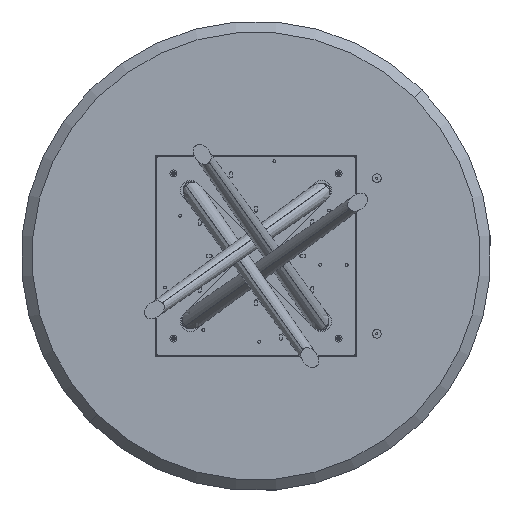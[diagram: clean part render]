
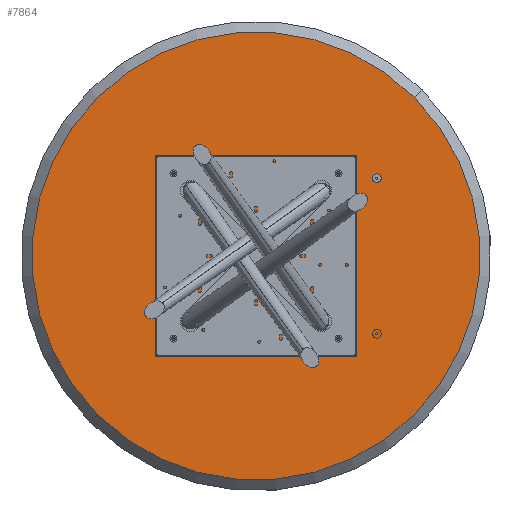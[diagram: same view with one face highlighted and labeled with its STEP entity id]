
A CAD part, front view. The second image highlights one B-rep face of the part: STEP entity #7864.
In plain terms, the highlighted planar face has unit normal (0, -1, 0).
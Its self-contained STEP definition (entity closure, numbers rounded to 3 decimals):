
#162 = EDGE_LOOP ( 'NONE', ( #18971, #11365 ) ) ;
#489 = AXIS2_PLACEMENT_3D ( 'NONE', #6352, #4981, #6551 ) ;
#820 = EDGE_CURVE ( 'NONE', #1099, #14665, #18886, .T. ) ;
#1099 = VERTEX_POINT ( 'NONE', #3529 ) ;
#1104 = AXIS2_PLACEMENT_3D ( 'NONE', #13378, #19371, #10521 ) ;
#1163 = DIRECTION ( 'NONE',  ( 0., -1., 0. ) ) ;
#1291 = DIRECTION ( 'NONE',  ( 0., 0., -1. ) ) ;
#1385 = EDGE_LOOP ( 'NONE', ( #18387, #8740 ) ) ;
#1412 = EDGE_CURVE ( 'NONE', #15209, #9123, #15758, .T. ) ;
#1702 = CIRCLE ( 'NONE', #15176, 3.4 ) ;
#1799 = FACE_BOUND ( 'NONE', #9133, .T. ) ;
#2221 = CARTESIAN_POINT ( 'NONE',  ( 0., 0., -397.5 ) ) ;
#3461 = VERTEX_POINT ( 'NONE', #7000 ) ;
#3529 = CARTESIAN_POINT ( 'NONE',  ( 0., 0., 400.9 ) ) ;
#3664 = ORIENTED_EDGE ( 'NONE', *, *, #5530, .F. ) ;
#3690 = CARTESIAN_POINT ( 'NONE',  ( 0., 0., -400.9 ) ) ;
#3761 = DIRECTION ( 'NONE',  ( 0., -1., 0. ) ) ;
#3920 = VERTEX_POINT ( 'NONE', #13228 ) ;
#3959 = DIRECTION ( 'NONE',  ( 0., 0., -1. ) ) ;
#3979 = CARTESIAN_POINT ( 'NONE',  ( -397.5, 0., -3.4 ) ) ;
#4098 = DIRECTION ( 'NONE',  ( 0., -1., 0. ) ) ;
#4161 = ORIENTED_EDGE ( 'NONE', *, *, #13284, .F. ) ;
#4541 = CIRCLE ( 'NONE', #1104, 3.4 ) ;
#4558 = FACE_OUTER_BOUND ( 'NONE', #162, .T. ) ;
#4756 = AXIS2_PLACEMENT_3D ( 'NONE', #2221, #4098, #8314 ) ;
#4840 = DIRECTION ( 'NONE',  ( 0., -1., 0. ) ) ;
#4864 = AXIS2_PLACEMENT_3D ( 'NONE', #19167, #11298, #3959 ) ;
#4981 = DIRECTION ( 'NONE',  ( 0., -1., 0. ) ) ;
#5000 = EDGE_CURVE ( 'NONE', #14665, #1099, #4541, .T. ) ;
#5270 = EDGE_CURVE ( 'NONE', #6345, #8703, #6737, .T. ) ;
#5530 = EDGE_CURVE ( 'NONE', #3920, #3461, #12391, .T. ) ;
#5691 = CARTESIAN_POINT ( 'NONE',  ( 0., 0., -763. ) ) ;
#5901 = DIRECTION ( 'NONE',  ( 0., -1., 0. ) ) ;
#5968 = CARTESIAN_POINT ( 'NONE',  ( 0., 0., -394.1 ) ) ;
#6147 = VERTEX_POINT ( 'NONE', #3979 ) ;
#6177 = CARTESIAN_POINT ( 'NONE',  ( 0., 0., 397.5 ) ) ;
#6268 = CARTESIAN_POINT ( 'NONE',  ( 397.5, 0., 0. ) ) ;
#6345 = VERTEX_POINT ( 'NONE', #9068 ) ;
#6352 = CARTESIAN_POINT ( 'NONE',  ( 397.5, 0., 0. ) ) ;
#6551 = DIRECTION ( 'NONE',  ( 0., 0., -1. ) ) ;
#6700 = PLANE ( 'NONE',  #10466 ) ;
#6737 = CIRCLE ( 'NONE', #18014, 763. ) ;
#6829 = CARTESIAN_POINT ( 'NONE',  ( -397.5, 0., 3.4 ) ) ;
#7000 = CARTESIAN_POINT ( 'NONE',  ( 397.5, 0., 3.4 ) ) ;
#7474 = ORIENTED_EDGE ( 'NONE', *, *, #10945, .F. ) ;
#7777 = CARTESIAN_POINT ( 'NONE',  ( 0., 0., 0. ) ) ;
#7864 = ADVANCED_FACE ( 'NONE', ( #4558, #15237, #1799, #16807, #14068 ), #6700, .T. ) ;
#8074 = EDGE_CURVE ( 'NONE', #9931, #6147, #11130, .T. ) ;
#8314 = DIRECTION ( 'NONE',  ( 0., 0., -1. ) ) ;
#8671 = ORIENTED_EDGE ( 'NONE', *, *, #12811, .F. ) ;
#8703 = VERTEX_POINT ( 'NONE', #5691 ) ;
#8740 = ORIENTED_EDGE ( 'NONE', *, *, #820, .F. ) ;
#8860 = AXIS2_PLACEMENT_3D ( 'NONE', #6177, #12159, #10793 ) ;
#9068 = CARTESIAN_POINT ( 'NONE',  ( 0., 0., 763. ) ) ;
#9108 = EDGE_LOOP ( 'NONE', ( #8671, #13673 ) ) ;
#9123 = VERTEX_POINT ( 'NONE', #3690 ) ;
#9133 = EDGE_LOOP ( 'NONE', ( #7474, #11455 ) ) ;
#9461 = AXIS2_PLACEMENT_3D ( 'NONE', #17289, #9839, #15805 ) ;
#9728 = CIRCLE ( 'NONE', #10032, 3.4 ) ;
#9839 = DIRECTION ( 'NONE',  ( 0., -1., 0. ) ) ;
#9842 = CARTESIAN_POINT ( 'NONE',  ( 0., 0., 0. ) ) ;
#9931 = VERTEX_POINT ( 'NONE', #6829 ) ;
#10032 = AXIS2_PLACEMENT_3D ( 'NONE', #19250, #11676, #1291 ) ;
#10466 = AXIS2_PLACEMENT_3D ( 'NONE', #7777, #4840, #10820 ) ;
#10521 = DIRECTION ( 'NONE',  ( 0., 0., -1. ) ) ;
#10793 = DIRECTION ( 'NONE',  ( 0., 0., -1. ) ) ;
#10820 = DIRECTION ( 'NONE',  ( 0., 0., -1. ) ) ;
#10945 = EDGE_CURVE ( 'NONE', #6147, #9931, #9728, .T. ) ;
#11130 = CIRCLE ( 'NONE', #4864, 3.4 ) ;
#11298 = DIRECTION ( 'NONE',  ( 0., -1., 0. ) ) ;
#11365 = ORIENTED_EDGE ( 'NONE', *, *, #12014, .T. ) ;
#11455 = ORIENTED_EDGE ( 'NONE', *, *, #8074, .F. ) ;
#11676 = DIRECTION ( 'NONE',  ( 0., -1., 0. ) ) ;
#11818 = DIRECTION ( 'NONE',  ( 0., 0., -1. ) ) ;
#12014 = EDGE_CURVE ( 'NONE', #8703, #6345, #17914, .T. ) ;
#12144 = EDGE_LOOP ( 'NONE', ( #3664, #4161 ) ) ;
#12159 = DIRECTION ( 'NONE',  ( 0., -1., 0. ) ) ;
#12391 = CIRCLE ( 'NONE', #489, 3.4 ) ;
#12811 = EDGE_CURVE ( 'NONE', #9123, #15209, #16349, .T. ) ;
#13228 = CARTESIAN_POINT ( 'NONE',  ( 397.5, 0., -3.4 ) ) ;
#13284 = EDGE_CURVE ( 'NONE', #3461, #3920, #1702, .T. ) ;
#13378 = CARTESIAN_POINT ( 'NONE',  ( 0., 0., 397.5 ) ) ;
#13673 = ORIENTED_EDGE ( 'NONE', *, *, #1412, .F. ) ;
#14068 = FACE_BOUND ( 'NONE', #1385, .T. ) ;
#14665 = VERTEX_POINT ( 'NONE', #16227 ) ;
#15176 = AXIS2_PLACEMENT_3D ( 'NONE', #6268, #5901, #16294 ) ;
#15209 = VERTEX_POINT ( 'NONE', #5968 ) ;
#15237 = FACE_BOUND ( 'NONE', #9108, .T. ) ;
#15758 = CIRCLE ( 'NONE', #16687, 3.4 ) ;
#15805 = DIRECTION ( 'NONE',  ( 0., 0., -1. ) ) ;
#16227 = CARTESIAN_POINT ( 'NONE',  ( 0., 0., 394.1 ) ) ;
#16294 = DIRECTION ( 'NONE',  ( 0., 0., -1. ) ) ;
#16349 = CIRCLE ( 'NONE', #4756, 3.4 ) ;
#16687 = AXIS2_PLACEMENT_3D ( 'NONE', #17543, #1163, #11818 ) ;
#16807 = FACE_BOUND ( 'NONE', #12144, .T. ) ;
#17289 = CARTESIAN_POINT ( 'NONE',  ( 0., 0., 0. ) ) ;
#17543 = CARTESIAN_POINT ( 'NONE',  ( 0., 0., -397.5 ) ) ;
#17914 = CIRCLE ( 'NONE', #9461, 763. ) ;
#18014 = AXIS2_PLACEMENT_3D ( 'NONE', #9842, #3761, #19140 ) ;
#18387 = ORIENTED_EDGE ( 'NONE', *, *, #5000, .F. ) ;
#18886 = CIRCLE ( 'NONE', #8860, 3.4 ) ;
#18971 = ORIENTED_EDGE ( 'NONE', *, *, #5270, .T. ) ;
#19140 = DIRECTION ( 'NONE',  ( 0., 0., -1. ) ) ;
#19167 = CARTESIAN_POINT ( 'NONE',  ( -397.5, 0., 0. ) ) ;
#19250 = CARTESIAN_POINT ( 'NONE',  ( -397.5, 0., 0. ) ) ;
#19371 = DIRECTION ( 'NONE',  ( 0., -1., 0. ) ) ;
